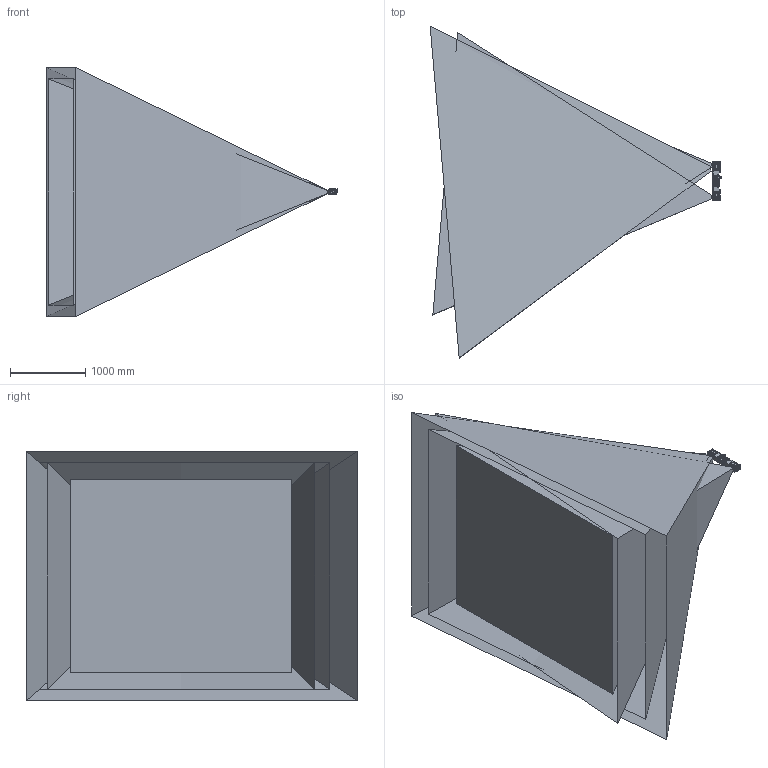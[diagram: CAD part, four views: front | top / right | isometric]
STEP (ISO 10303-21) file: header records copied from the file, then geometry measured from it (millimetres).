
FILE_DESCRIPTION((''),'2;1');
FILE_NAME('MV-DLS1400M-15L--0001','2025-11-19T10:26:51',('guodanfeng'),(''),'CREO PARAMETRIC BY PTC INC, 2020044','CREO PARAMETRIC BY PTC INC, 2020044','');
FILE_SCHEMA(('AUTOMOTIVE_DESIGN { 1 0 10303 214 1 1 1 1 }'));
Products named in the file (1): MV-DLS1400M-15L--0001
Bounding box: 3874.93 x 4403.99 x 3311.63 mm (x, y, z)
Volume: 8182200000 mm3; surface area: 111532250.3 mm2
Topology: 1 solids, 76 shells, 2461 faces, 8294 edges, 5690 vertices
Faces by surface type: plane 1338, cylinder 838, cone 98, bspline 92, extrusion 48, torus 43, sphere 4
Entity records: 149348 total; most frequent: CARTESIAN_POINT 74394, ORIENTED_EDGE 14298, DIRECTION 13656, EDGE_CURVE 8271, VERTEX_POINT 5690, VECTOR 4978, LINE 4930, AXIS2_PLACEMENT_3D 4339
